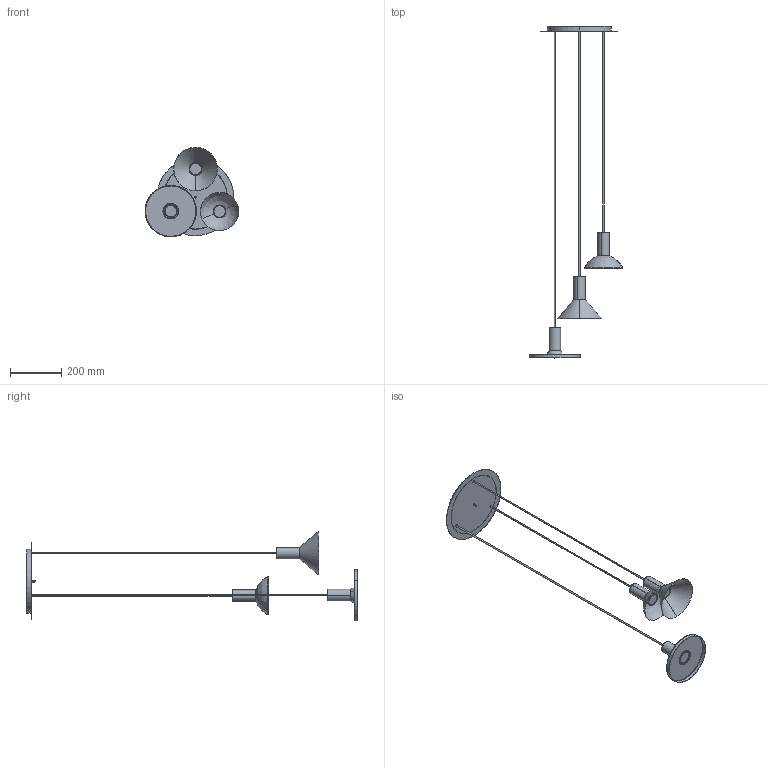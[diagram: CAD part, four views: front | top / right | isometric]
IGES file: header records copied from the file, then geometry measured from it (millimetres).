
Start section: SolidWorks IGES file using analytic representation for surfaces
Global section: file name: Z:\Modele 3D_WWW\_KOLEKCJE_WWW\HERMANOS\HERMANOS-III-8030-8031\HERMANOS-III-8030-8031.IGS; native system: SolidWorks 2020; preprocessor: SolidWorks 2020; author: gabriela.tworek; date: 210301.163451; units: millimetre
Bounding box: 365.47 x 1295.92 x 349.46 mm (x, y, z)
Surface area: 652458 mm2 (no closed solid volume)
Topology: 0 solids, 0 shells, 431 faces, 9024 edges, 9024 vertices
Faces by surface type: revolution 293, bspline 138
